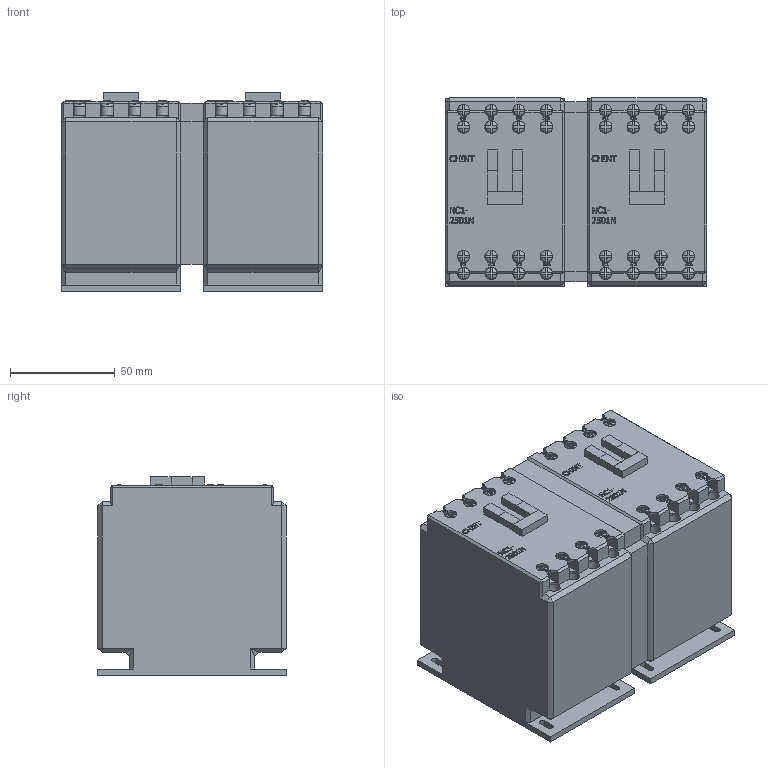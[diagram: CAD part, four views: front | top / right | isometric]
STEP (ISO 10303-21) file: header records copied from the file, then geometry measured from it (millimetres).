
FILE_DESCRIPTION(/* description */ (''),/* implementation_level */ '2;1');
FILE_NAME(/* name */ 'D:\CHINT2\NC1-N\NC1-2501N 230В 50Гц.stp',/* time_stamp */ '2017-11-12T20:35:26+03:00',/* author */ ('RSagdiev'),/* organization */ (''),/* preprocessor_version */ 'ST-DEVELOPER v16.5',/* originating_system */ 'Autodesk Inventor 2017',/* authorisation */ '');
FILE_SCHEMA (('AUTOMOTIVE_DESIGN { 1 0 10303 214 3 1 1 }'));
Products named in the file (1): NC1-2501N 230В 50Гц
Bounding box: 125 x 90 x 95 mm (x, y, z)
Volume: 958268.5 mm3; surface area: 80292.6 mm2
Topology: 37 solids, 37 shells, 2154 faces, 5660 edges, 3692 vertices
Faces by surface type: plane 1576, bspline 482, cylinder 96
Full cylindrical faces by diameter (mm): 5.8 x16, 6 x32
Entity records: 71165 total; most frequent: CARTESIAN_POINT 21329, ORIENTED_EDGE 11224, DIRECTION 8370, EDGE_CURVE 5612, LINE 3848, VECTOR 3848, VERTEX_POINT 3692, EDGE_LOOP 2362
